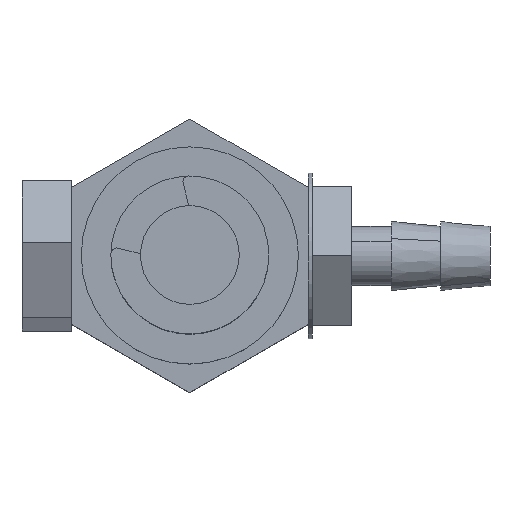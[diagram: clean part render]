
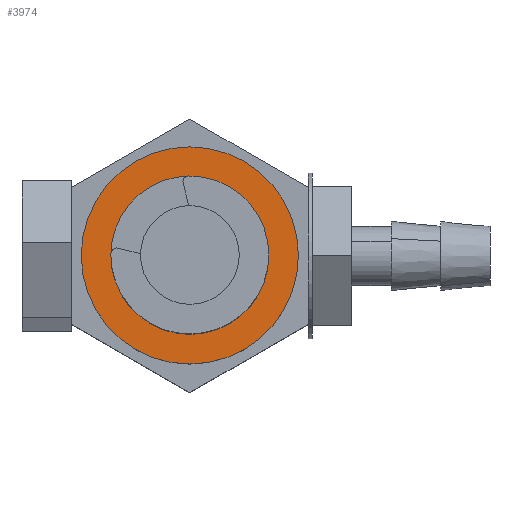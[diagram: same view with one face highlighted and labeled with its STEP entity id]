
A CAD part, top view. The second image highlights one B-rep face of the part: STEP entity #3974.
In plain terms, the highlighted planar face has unit normal (0, 0, 1).
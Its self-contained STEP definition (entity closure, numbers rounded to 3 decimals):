
#49 = CARTESIAN_POINT ( 'NONE',  ( 0.294, 0.093, 5.25 ) ) ;
#256 = DIRECTION ( 'NONE',  ( 0., 1., 0. ) ) ;
#426 = ORIENTED_EDGE ( 'NONE', *, *, #7907, .T. ) ;
#628 = AXIS2_PLACEMENT_3D ( 'NONE', #1492, #6137, #2177 ) ;
#725 = DIRECTION ( 'NONE',  ( 1., 0., 0. ) ) ;
#1259 = CIRCLE ( 'NONE', #7942, 5.5 ) ;
#1487 = DIRECTION ( 'NONE',  ( 0., 0., -1. ) ) ;
#1492 = CARTESIAN_POINT ( 'NONE',  ( 0.294, 0.093, 5.25 ) ) ;
#1967 = CARTESIAN_POINT ( 'NONE',  ( 0.294, 4.093, 5.25 ) ) ;
#2133 = DIRECTION ( 'NONE',  ( 0., 0., -1. ) ) ;
#2177 = DIRECTION ( 'NONE',  ( 0., 1., 0. ) ) ;
#2339 = AXIS2_PLACEMENT_3D ( 'NONE', #8220, #4262, #256 ) ;
#2432 = EDGE_LOOP ( 'NONE', ( #4939, #6473 ) ) ;
#2599 = CIRCLE ( 'NONE', #2339, 4. ) ;
#2626 = CARTESIAN_POINT ( 'NONE',  ( 0.294, -3.907, 5.25 ) ) ;
#3452 = VERTEX_POINT ( 'NONE', #8579 ) ;
#3632 = EDGE_CURVE ( 'NONE', #3452, #4461, #5604, .T. ) ;
#3974 = ADVANCED_FACE ( 'NONE', ( #5942, #4168 ), #6724, .F. ) ;
#4168 = FACE_OUTER_BOUND ( 'NONE', #2432, .T. ) ;
#4209 = EDGE_LOOP ( 'NONE', ( #7487, #426 ) ) ;
#4262 = DIRECTION ( 'NONE',  ( 0., 0., -1. ) ) ;
#4461 = VERTEX_POINT ( 'NONE', #8035 ) ;
#4701 = CIRCLE ( 'NONE', #628, 4. ) ;
#4747 = DIRECTION ( 'NONE',  ( 0., 0., -1. ) ) ;
#4852 = VERTEX_POINT ( 'NONE', #1967 ) ;
#4902 = EDGE_CURVE ( 'NONE', #4461, #3452, #1259, .T. ) ;
#4939 = ORIENTED_EDGE ( 'NONE', *, *, #3632, .F. ) ;
#5477 = CARTESIAN_POINT ( 'NONE',  ( 0.294, 0.093, 5.25 ) ) ;
#5604 = CIRCLE ( 'NONE', #8458, 5.5 ) ;
#5942 = FACE_BOUND ( 'NONE', #4209, .T. ) ;
#6086 = CARTESIAN_POINT ( 'NONE',  ( 5.86, -5.473, 5.25 ) ) ;
#6131 = DIRECTION ( 'NONE',  ( 1., 0., 0. ) ) ;
#6137 = DIRECTION ( 'NONE',  ( 0., 0., -1. ) ) ;
#6473 = ORIENTED_EDGE ( 'NONE', *, *, #4902, .F. ) ;
#6672 = VERTEX_POINT ( 'NONE', #2626 ) ;
#6724 = PLANE ( 'NONE',  #7429 ) ;
#6750 = DIRECTION ( 'NONE',  ( -1., 0., 0. ) ) ;
#7238 = EDGE_CURVE ( 'NONE', #4852, #6672, #4701, .T. ) ;
#7429 = AXIS2_PLACEMENT_3D ( 'NONE', #6086, #2133, #6750 ) ;
#7487 = ORIENTED_EDGE ( 'NONE', *, *, #7238, .T. ) ;
#7907 = EDGE_CURVE ( 'NONE', #6672, #4852, #2599, .T. ) ;
#7942 = AXIS2_PLACEMENT_3D ( 'NONE', #5477, #1487, #6131 ) ;
#8035 = CARTESIAN_POINT ( 'NONE',  ( -5.206, 0.093, 5.25 ) ) ;
#8220 = CARTESIAN_POINT ( 'NONE',  ( 0.294, 0.093, 5.25 ) ) ;
#8458 = AXIS2_PLACEMENT_3D ( 'NONE', #49, #4747, #725 ) ;
#8579 = CARTESIAN_POINT ( 'NONE',  ( 5.794, 0.093, 5.25 ) ) ;
